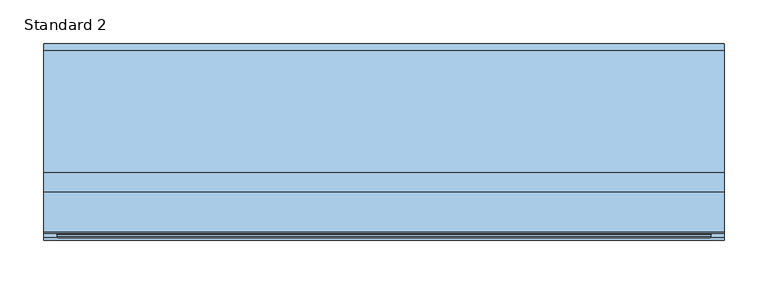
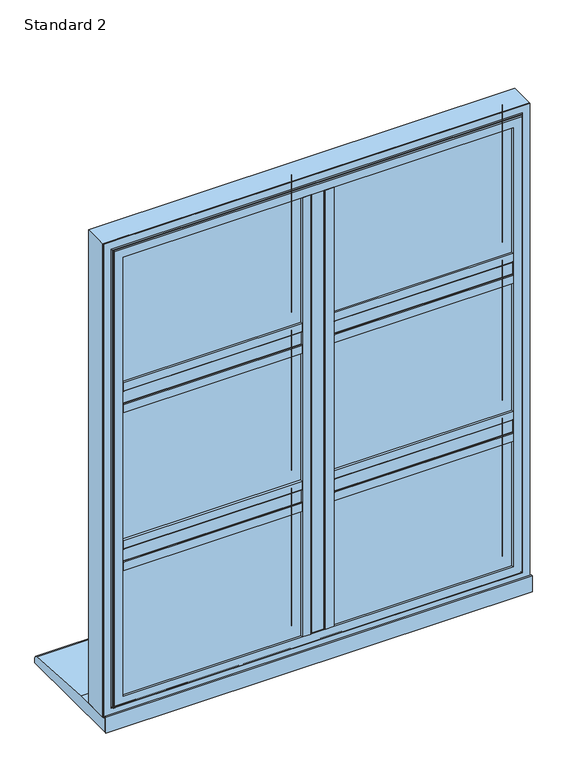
"""IFC4 building model written with IfcOpenShell, lengths in millimetres: window geometry, SMARTS_AlithermHeritage : Standard 2."""

from ifc_helpers import new_model, si_unit, point, frame, frame_2d, origin, place, context, project, spatial, polyline, circle_curve, ellipse_curve, trimmed, segment, composite_curve, outline, extrude, faceted_brep, source, transform, mapped, element, save
from ifc_brep_helpers import plane_surface, cylinder_surface, revolved_surface, advanced_brep


def standard_2_56b7443b(model_context):
    return source(origin(), model_context, "Body", "SolidModel", [
        extrude(outline(polyline([(-13.6941456, 95.2798432), (13.6941456, 95.2798432), (13.6941456, 47.279476), (-13.6941456, 47.279476), (-13.6941456, 95.2798432)])), frame((0.0, 0.0, 652.6941456), z_axis=(0.0, 0.0, 1.0), x_axis=(1.0, 0.0, 0.0)), (0.0, 0.0, 1.0), 879.6117089),
        extrude(outline(composite_curve([segment(polyline([(-29.0, 47.279476), (29.0, 47.279476), (29.0, 43.2798432), (13.0, 43.2798432)]), True, "CONTINUOUS"), segment(trimmed(circle_curve(frame_2d((13.0, 44.2798432)), 1.0), [point((13.0, 43.2798432))], [point((12.0, 44.2798432))], False, "CARTESIAN"), True, "CONTINUOUS"), segment(polyline([(12.0, 44.2798432), (12.0, 45.7798432), (-12.0, 45.7798432), (-12.0, 44.2798432)]), True, "CONTINUOUS"), segment(trimmed(circle_curve(frame_2d((-13.0, 44.2798432)), 1.0), [point((-12.0, 44.2798432))], [point((-13.0, 43.2798432))], False, "CARTESIAN"), True, "CONTINUOUS"), segment(polyline([(-13.0, 43.2798432), (-29.0, 43.2798432), (-29.0, 47.279476)]), True, "CONTINUOUS")], self_intersect=False)), frame((0.0, 0.0, 668.0), z_axis=(0.0, 0.0, 1.0), x_axis=(1.0, 0.0, 0.0)), (0.0, 0.0, 1.0), 849.0),
        extrude(outline(polyline([(-13.6941456, 95.2798432), (-13.6941456, 47.279476), (-372.3058544, 47.279476), (-372.3058544, 95.2798432), (-13.6941456, 95.2798432)])), frame((0.0, 0.0, 926.3058544), z_axis=(0.0, 0.0, 1.0), x_axis=(1.0, 0.0, 0.0)), (0.0, 0.0, 1.0), 27.3882911),
        extrude(outline(composite_curve([segment(polyline([(47.279476, 911.0), (43.2798432, 911.0), (43.2798432, 927.0)]), True, "CONTINUOUS"), segment(trimmed(circle_curve(frame_2d((44.2798432, 927.0)), 1.0), [point((43.2798432, 927.0))], [point((44.2798432, 928.0))], False, "CARTESIAN"), True, "CONTINUOUS"), segment(polyline([(44.2798432, 928.0), (45.7798432, 928.0), (45.7798432, 952.0), (44.2798432, 952.0)]), True, "CONTINUOUS"), segment(trimmed(circle_curve(frame_2d((44.2798432, 953.0)), 1.0), [point((44.2798432, 952.0))], [point((43.2798432, 953.0))], False, "CARTESIAN"), True, "CONTINUOUS"), segment(polyline([(43.2798432, 953.0), (43.2798432, 969.0), (47.279476, 969.0), (47.279476, 911.0)]), True, "CONTINUOUS")], self_intersect=False)), frame((-357.0, 0.0, 0.0), z_axis=(1.0, 0.0, 0.0), x_axis=(0.0, 1.0, 0.0)), (0.0, 0.0, 1.0), 328.0),
        extrude(outline(polyline([(-13.6941456, 95.2798432), (-13.6941456, 47.279476), (-372.3058544, 47.279476), (-372.3058544, 95.2798432), (-13.6941456, 95.2798432)])), frame((0.0, 0.0, 1231.3058544), z_axis=(0.0, 0.0, 1.0), x_axis=(1.0, 0.0, 0.0)), (0.0, 0.0, 1.0), 27.3882911),
        extrude(outline(composite_curve([segment(polyline([(47.279476, 1216.0), (43.2798432, 1216.0), (43.2798432, 1232.0)]), True, "CONTINUOUS"), segment(trimmed(circle_curve(frame_2d((44.2798432, 1232.0)), 1.0), [point((43.2798432, 1232.0))], [point((44.2798432, 1233.0))], False, "CARTESIAN"), True, "CONTINUOUS"), segment(polyline([(44.2798432, 1233.0), (45.7798432, 1233.0), (45.7798432, 1257.0), (44.2798432, 1257.0)]), True, "CONTINUOUS"), segment(trimmed(circle_curve(frame_2d((44.2798432, 1258.0)), 1.0), [point((44.2798432, 1257.0))], [point((43.2798432, 1258.0))], False, "CARTESIAN"), True, "CONTINUOUS"), segment(polyline([(43.2798432, 1258.0), (43.2798432, 1274.0), (47.279476, 1274.0), (47.279476, 1216.0)]), True, "CONTINUOUS")], self_intersect=False)), frame((-357.0, 0.0, 0.0), z_axis=(1.0, 0.0, 0.0), x_axis=(0.0, 1.0, 0.0)), (0.0, 0.0, 1.0), 328.0),
        extrude(outline(polyline([(372.3058544, 95.2798432), (372.3058544, 47.279476), (13.6941456, 47.279476), (13.6941456, 95.2798432), (372.3058544, 95.2798432)])), frame((0.0, 0.0, 926.3058544), z_axis=(0.0, 0.0, 1.0), x_axis=(1.0, 0.0, 0.0)), (0.0, 0.0, 1.0), 27.3882911),
        extrude(outline(composite_curve([segment(polyline([(47.279476, 911.0), (43.2798432, 911.0), (43.2798432, 927.0)]), True, "CONTINUOUS"), segment(trimmed(circle_curve(frame_2d((44.2798432, 927.0)), 1.0), [point((43.2798432, 927.0))], [point((44.2798432, 928.0))], False, "CARTESIAN"), True, "CONTINUOUS"), segment(polyline([(44.2798432, 928.0), (45.7798432, 928.0), (45.7798432, 952.0), (44.2798432, 952.0)]), True, "CONTINUOUS"), segment(trimmed(circle_curve(frame_2d((44.2798432, 953.0)), 1.0), [point((44.2798432, 952.0))], [point((43.2798432, 953.0))], False, "CARTESIAN"), True, "CONTINUOUS"), segment(polyline([(43.2798432, 953.0), (43.2798432, 969.0), (47.279476, 969.0), (47.279476, 911.0)]), True, "CONTINUOUS")], self_intersect=False)), frame((29.0, 0.0, 0.0), z_axis=(1.0, 0.0, 0.0), x_axis=(0.0, 1.0, 0.0)), (0.0, 0.0, 1.0), 328.0),
        extrude(outline(polyline([(372.3058544, 95.2798432), (372.3058544, 47.279476), (13.6941456, 47.279476), (13.6941456, 95.2798432), (372.3058544, 95.2798432)])), frame((0.0, 0.0, 1231.3058544), z_axis=(0.0, 0.0, 1.0), x_axis=(1.0, 0.0, 0.0)), (0.0, 0.0, 1.0), 27.3882911),
        extrude(outline(composite_curve([segment(polyline([(47.279476, 1216.0), (43.2798432, 1216.0), (43.2798432, 1232.0)]), True, "CONTINUOUS"), segment(trimmed(circle_curve(frame_2d((44.2798432, 1232.0)), 1.0), [point((43.2798432, 1232.0))], [point((44.2798432, 1233.0))], False, "CARTESIAN"), True, "CONTINUOUS"), segment(polyline([(44.2798432, 1233.0), (45.7798432, 1233.0), (45.7798432, 1257.0), (44.2798432, 1257.0)]), True, "CONTINUOUS"), segment(trimmed(circle_curve(frame_2d((44.2798432, 1258.0)), 1.0), [point((44.2798432, 1257.0))], [point((43.2798432, 1258.0))], False, "CARTESIAN"), True, "CONTINUOUS"), segment(polyline([(43.2798432, 1258.0), (43.2798432, 1274.0), (47.279476, 1274.0), (47.279476, 1216.0)]), True, "CONTINUOUS")], self_intersect=False)), frame((29.0, 0.0, 0.0), z_axis=(1.0, 0.0, 0.0), x_axis=(0.0, 1.0, 0.0)), (0.0, 0.0, 1.0), 328.0),
        extrude(outline(polyline([(-367.0, 75.2798432), (-19.0, 75.2798432), (-19.0, 71.2798432), (-367.0, 71.2798432), (-367.0, 75.2798432)])), frame((0.0, 0.0, 658.0), z_axis=(0.0, 0.0, 1.0), x_axis=(1.0, 0.0, 0.0)), (0.0, 0.0, 1.0), 263.0),
        extrude(outline(polyline([(-367.0, 55.2798432), (-19.0, 55.2798432), (-19.0, 51.2798432), (-367.0, 51.2798432), (-367.0, 55.2798432)])), frame((0.0, 0.0, 658.0), z_axis=(0.0, 0.0, 1.0), x_axis=(1.0, 0.0, 0.0)), (0.0, 0.0, 1.0), 263.0),
        extrude(outline(polyline([(921.0, -367.0), (658.0, -367.0), (658.0, -19.0), (921.0, -19.0), (921.0, -367.0)]), holes=[polyline([(911.0, -29.0), (668.0, -29.0), (668.0, -357.0), (911.0, -357.0), (911.0, -29.0)])]), frame((0.0, 55.2798432, 0.0), z_axis=(0.0, 1.0, 0.0), x_axis=(0.0, 0.0, 1.0)), (0.0, 0.0, 1.0), 16.0),
        faceted_brep([(-19.1851151, 95.2798432, 920.8148849), (-29.0, 78.2798098, 911.0), (-357.0, 78.2798098, 911.0), (-366.8148849, 95.2798432, 920.8148849), (-13.6297324, 78.2798098, 926.3702676), (-13.6297324, 95.2798432, 926.3702676), (-372.3702676, 95.2798432, 926.3702676), (-372.3702676, 78.2798098, 926.3702676), (-372.3702676, 78.2798098, 652.6297324), (-372.3702676, 95.2798432, 652.6297324), (-13.6297324, 95.2798432, 652.6297324), (-13.6297324, 78.2798098, 652.6297324), (-366.8148849, 95.2798432, 658.1851151), (-19.1851151, 95.2798432, 658.1851151), (-29.0, 78.2798098, 668.0), (-357.0, 78.2798098, 668.0)], [[[0, 1, 2, 3]], [[4, 5, 6, 7]], [[8, 9, 10, 11]], [[5, 10, 9, 6], [3, 12, 13, 0]], [[7, 8, 11, 4], [1, 14, 15, 2]], [[3, 2, 15, 12]], [[7, 6, 9, 8]], [[12, 15, 14, 13]], [[13, 14, 1, 0]], [[11, 10, 5, 4]]]),
        extrude(outline(polyline([(-367.0, 75.2798432), (-19.0, 75.2798432), (-19.0, 71.2798432), (-367.0, 71.2798432), (-367.0, 75.2798432)])), frame((0.0, 0.0, 959.0), z_axis=(0.0, 0.0, 1.0), x_axis=(1.0, 0.0, 0.0)), (0.0, 0.0, 1.0), 267.0),
        extrude(outline(polyline([(-367.0, 55.2798432), (-19.0, 55.2798432), (-19.0, 51.2798432), (-367.0, 51.2798432), (-367.0, 55.2798432)])), frame((0.0, 0.0, 959.0), z_axis=(0.0, 0.0, 1.0), x_axis=(1.0, 0.0, 0.0)), (0.0, 0.0, 1.0), 267.0),
        extrude(outline(polyline([(1226.0, -367.0), (959.0, -367.0), (959.0, -19.0), (1226.0, -19.0), (1226.0, -367.0)]), holes=[polyline([(1216.0, -29.0), (969.0, -29.0), (969.0, -357.0), (1216.0, -357.0), (1216.0, -29.0)])]), frame((0.0, 55.2798432, 0.0), z_axis=(0.0, 1.0, 0.0), x_axis=(0.0, 0.0, 1.0)), (0.0, 0.0, 1.0), 16.0),
        faceted_brep([(-19.1851151, 95.2798432, 1225.8148849), (-29.0, 78.2798098, 1216.0), (-357.0, 78.2798098, 1216.0), (-366.8148849, 95.2798432, 1225.8148849), (-13.6297324, 78.2798098, 1231.3702676), (-13.6297324, 95.2798432, 1231.3702676), (-372.3702676, 95.2798432, 1231.3702676), (-372.3702676, 78.2798098, 1231.3702676), (-372.3702676, 78.2798098, 953.6297324), (-372.3702676, 95.2798432, 953.6297324), (-13.6297324, 95.2798432, 953.6297324), (-13.6297324, 78.2798098, 953.6297324), (-366.8148849, 95.2798432, 959.1851151), (-19.1851151, 95.2798432, 959.1851151), (-29.0, 78.2798098, 969.0), (-357.0, 78.2798098, 969.0)], [[[0, 1, 2, 3]], [[4, 5, 6, 7]], [[8, 9, 10, 11]], [[5, 10, 9, 6], [3, 12, 13, 0]], [[7, 8, 11, 4], [1, 14, 15, 2]], [[3, 2, 15, 12]], [[7, 6, 9, 8]], [[12, 15, 14, 13]], [[13, 14, 1, 0]], [[11, 10, 5, 4]]]),
        extrude(outline(polyline([(-367.0, 75.2798432), (-19.0, 75.2798432), (-19.0, 71.2798432), (-367.0, 71.2798432), (-367.0, 75.2798432)])), frame((0.0, 0.0, 1264.0), z_axis=(0.0, 0.0, 1.0), x_axis=(1.0, 0.0, 0.0)), (0.0, 0.0, 1.0), 263.0),
        extrude(outline(polyline([(-367.0, 55.2798432), (-19.0, 55.2798432), (-19.0, 51.2798432), (-367.0, 51.2798432), (-367.0, 55.2798432)])), frame((0.0, 0.0, 1264.0), z_axis=(0.0, 0.0, 1.0), x_axis=(1.0, 0.0, 0.0)), (0.0, 0.0, 1.0), 263.0),
        extrude(outline(polyline([(1527.0, -367.0), (1264.0, -367.0), (1264.0, -19.0), (1527.0, -19.0), (1527.0, -367.0)]), holes=[polyline([(1517.0, -29.0), (1274.0, -29.0), (1274.0, -357.0), (1517.0, -357.0), (1517.0, -29.0)])]), frame((0.0, 55.2798432, 0.0), z_axis=(0.0, 1.0, 0.0), x_axis=(0.0, 0.0, 1.0)), (0.0, 0.0, 1.0), 16.0),
        faceted_brep([(-19.1851151, 95.2798432, 1526.8148849), (-29.0, 78.2798098, 1517.0), (-357.0, 78.2798098, 1517.0), (-366.8148849, 95.2798432, 1526.8148849), (-13.6297324, 78.2798098, 1532.3702676), (-13.6297324, 95.2798432, 1532.3702676), (-372.3702676, 95.2798432, 1532.3702676), (-372.3702676, 78.2798098, 1532.3702676), (-372.3702676, 78.2798098, 1258.6297324), (-372.3702676, 95.2798432, 1258.6297324), (-13.6297324, 95.2798432, 1258.6297324), (-13.6297324, 78.2798098, 1258.6297324), (-366.8148849, 95.2798432, 1264.1851151), (-19.1851151, 95.2798432, 1264.1851151), (-29.0, 78.2798098, 1274.0), (-357.0, 78.2798098, 1274.0)], [[[0, 1, 2, 3]], [[4, 5, 6, 7]], [[8, 9, 10, 11]], [[5, 10, 9, 6], [3, 12, 13, 0]], [[7, 8, 11, 4], [1, 14, 15, 2]], [[3, 2, 15, 12]], [[7, 6, 9, 8]], [[12, 15, 14, 13]], [[13, 14, 1, 0]], [[11, 10, 5, 4]]]),
        extrude(outline(polyline([(19.0, 75.2798432), (367.0, 75.2798432), (367.0, 71.2798432), (19.0, 71.2798432), (19.0, 75.2798432)])), frame((0.0, 0.0, 658.0), z_axis=(0.0, 0.0, 1.0), x_axis=(1.0, 0.0, 0.0)), (0.0, 0.0, 1.0), 263.0),
        extrude(outline(polyline([(19.0, 55.2798432), (367.0, 55.2798432), (367.0, 51.2798432), (19.0, 51.2798432), (19.0, 55.2798432)])), frame((0.0, 0.0, 658.0), z_axis=(0.0, 0.0, 1.0), x_axis=(1.0, 0.0, 0.0)), (0.0, 0.0, 1.0), 263.0),
        extrude(outline(polyline([(921.0, 19.0), (658.0, 19.0), (658.0, 367.0), (921.0, 367.0), (921.0, 19.0)]), holes=[polyline([(911.0, 357.0), (668.0, 357.0), (668.0, 29.0), (911.0, 29.0), (911.0, 357.0)])]), frame((0.0, 55.2798432, 0.0), z_axis=(0.0, 1.0, 0.0), x_axis=(0.0, 0.0, 1.0)), (0.0, 0.0, 1.0), 16.0),
        faceted_brep([(366.8148849, 95.2798432, 920.8148849), (357.0, 78.2798098, 911.0), (29.0, 78.2798098, 911.0), (19.1851151, 95.2798432, 920.8148849), (372.3702676, 78.2798098, 926.3702676), (372.3702676, 95.2798432, 926.3702676), (13.6297324, 95.2798432, 926.3702676), (13.6297324, 78.2798098, 926.3702676), (13.6297324, 78.2798098, 652.6297324), (13.6297324, 95.2798432, 652.6297324), (372.3702676, 95.2798432, 652.6297324), (372.3702676, 78.2798098, 652.6297324), (19.1851151, 95.2798432, 658.1851151), (366.8148849, 95.2798432, 658.1851151), (357.0, 78.2798098, 668.0), (29.0, 78.2798098, 668.0)], [[[0, 1, 2, 3]], [[4, 5, 6, 7]], [[8, 9, 10, 11]], [[5, 10, 9, 6], [3, 12, 13, 0]], [[7, 8, 11, 4], [1, 14, 15, 2]], [[3, 2, 15, 12]], [[7, 6, 9, 8]], [[12, 15, 14, 13]], [[13, 14, 1, 0]], [[11, 10, 5, 4]]]),
        extrude(outline(polyline([(19.0, 75.2798432), (367.0, 75.2798432), (367.0, 71.2798432), (19.0, 71.2798432), (19.0, 75.2798432)])), frame((0.0, 0.0, 959.0), z_axis=(0.0, 0.0, 1.0), x_axis=(1.0, 0.0, 0.0)), (0.0, 0.0, 1.0), 267.0),
        extrude(outline(polyline([(19.0, 55.2798432), (367.0, 55.2798432), (367.0, 51.2798432), (19.0, 51.2798432), (19.0, 55.2798432)])), frame((0.0, 0.0, 959.0), z_axis=(0.0, 0.0, 1.0), x_axis=(1.0, 0.0, 0.0)), (0.0, 0.0, 1.0), 267.0),
        extrude(outline(polyline([(1226.0, 19.0), (959.0, 19.0), (959.0, 367.0), (1226.0, 367.0), (1226.0, 19.0)]), holes=[polyline([(1216.0, 357.0), (969.0, 357.0), (969.0, 29.0), (1216.0, 29.0), (1216.0, 357.0)])]), frame((0.0, 55.2798432, 0.0), z_axis=(0.0, 1.0, 0.0), x_axis=(0.0, 0.0, 1.0)), (0.0, 0.0, 1.0), 16.0),
        faceted_brep([(366.8148849, 95.2798432, 1225.8148849), (357.0, 78.2798098, 1216.0), (29.0, 78.2798098, 1216.0), (19.1851151, 95.2798432, 1225.8148849), (372.3702676, 78.2798098, 1231.3702676), (372.3702676, 95.2798432, 1231.3702676), (13.6297324, 95.2798432, 1231.3702676), (13.6297324, 78.2798098, 1231.3702676), (13.6297324, 78.2798098, 953.6297324), (13.6297324, 95.2798432, 953.6297324), (372.3702676, 95.2798432, 953.6297324), (372.3702676, 78.2798098, 953.6297324), (19.1851151, 95.2798432, 959.1851151), (366.8148849, 95.2798432, 959.1851151), (357.0, 78.2798098, 969.0), (29.0, 78.2798098, 969.0)], [[[0, 1, 2, 3]], [[4, 5, 6, 7]], [[8, 9, 10, 11]], [[5, 10, 9, 6], [3, 12, 13, 0]], [[7, 8, 11, 4], [1, 14, 15, 2]], [[3, 2, 15, 12]], [[7, 6, 9, 8]], [[12, 15, 14, 13]], [[13, 14, 1, 0]], [[11, 10, 5, 4]]]),
        extrude(outline(polyline([(1550.0, 390.0), (1550.0, -390.0), (635.0, -390.0), (635.0, 390.0), (1550.0, 390.0)]), holes=[polyline([(652.7000182, 372.2999818), (652.7000182, -372.2999818), (1532.2999818, -372.2999818), (1532.2999818, 372.2999818), (652.7000182, 372.2999818)])]), frame((0.0, 50.279857, 0.0), z_axis=(0.0, 1.0, 0.0), x_axis=(0.0, 0.0, 1.0)), (0.0, 0.0, 1.0), 44.9999962),
        advanced_brep(
        [(357.0, 43.2798432, 1517.0), (357.0, 47.2798432, 1517.0), (357.0, 47.2798432, 668.0), (357.0, 43.2798432, 668.0), (390.0, 50.279857, 1550.0), (390.0, 48.279857, 1550.0), (390.0, 48.279857, 635.0), (390.0, 50.279857, 635.0), (372.4999818, 43.2798432, 1532.4999818), (-372.4999818, 43.2798432, 1532.4999818), (-372.4999818, 43.2798432, 652.5000182), (372.4999818, 43.2798432, 652.5000182), (-357.0, 43.2798432, 668.0), (-357.0, 43.2798432, 1517.0), (-390.0, 50.279857, 1550.0), (-390.0, 48.279857, 1550.0), (-390.0, 50.279857, 635.0), (372.2999818, 50.279857, 1532.2999818), (-372.2999818, 50.279857, 1532.2999818), (-372.2999818, 50.279857, 652.7000182), (372.2999818, 50.279857, 652.7000182), (-357.0, 47.2798432, 1517.0), (-357.0, 47.2798432, 668.0), (-390.0, 48.279857, 635.0), (-372.2999818, 47.2798432, 1532.2999818), (372.2999818, 47.2798432, 1532.2999818), (372.2999818, 47.2798432, 652.7000182), (374.4999818, 46.779857, 650.5000182), (374.4999818, 45.2798432, 650.5000182), (-374.4999818, 45.2798432, 650.5000182), (-374.4999818, 46.779857, 650.5000182), (374.4999818, 46.779857, 1534.4999818), (374.4999818, 45.2798432, 1534.4999818), (-372.2999818, 47.2798432, 652.7000182), (-374.4999818, 45.2798432, 1534.4999818), (-374.4999818, 46.779857, 1534.4999818), (375.9999818, 48.279857, 1535.9999818), (375.9999818, 48.279857, 649.0000182), (-375.9999818, 48.279857, 649.0000182), (-375.9999818, 48.279857, 1535.9999818)],
        [
            (0, 1),
            (1, 2),
            (2, 3),
            (3, 0),
            (4, 5),
            (5, 6),
            (6, 7),
            (7, 4),
            (8, 9),
            (9, 10),
            (10, 11),
            (11, 8),
            (3, 12),
            (12, 13),
            (13, 0),
            (14, 15),
            (15, 5),
            (4, 14),
            (7, 16),
            (16, 14),
            (17, 18),
            (18, 19),
            (19, 20),
            (20, 17),
            (13, 21),
            (21, 1),
            (2, 22),
            (22, 12),
            (22, 21),
            (6, 23),
            (23, 16),
            (23, 15),
            (24, 18),
            (17, 25),
            (25, 24),
            (20, 26),
            (26, 25),
            (27, 28),
            (28, 29),
            (29, 30),
            (30, 27),
            (31, 32),
            (32, 28),
            (27, 31),
            (19, 33),
            (33, 26),
            (24, 33),
            (29, 34),
            (34, 35),
            (35, 30),
            (34, 32),
            (31, 35),
            (36, 31, ellipse_curve(frame((375.9999818, 46.779857, 1535.9999818), z_axis=(-0.7071067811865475, 0.0, 0.7071067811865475), x_axis=(-0.7071067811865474, 0.0, -0.7071067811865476)), 2.1213203, 1.5)),
            (27, 37, ellipse_curve(frame((375.9999818, 46.779857, 649.0000182), z_axis=(-0.7071067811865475, 0.0, -0.7071067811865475), x_axis=(0.7071067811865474, 0.0, -0.7071067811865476)), 2.1213203, 1.5)),
            (37, 36),
            (30, 38, ellipse_curve(frame((-375.9999818, 46.779857, 649.0000182), z_axis=(-0.7071067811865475, 0.0, 0.7071067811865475), x_axis=(-0.7071067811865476, 0.0, -0.7071067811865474)), 2.1213203, 1.5)),
            (38, 37),
            (35, 39, ellipse_curve(frame((-375.9999818, 46.779857, 1535.9999818), z_axis=(0.7071067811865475, 0.0, 0.7071067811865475), x_axis=(-0.7071067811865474, 0.0, 0.7071067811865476)), 2.1213203, 1.5)),
            (39, 38),
            (36, 39),
            (32, 8, ellipse_curve(frame((372.4999818, 45.2798432, 1532.4999818), z_axis=(0.7071067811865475, 0.0, -0.7071067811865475), x_axis=(0.7071067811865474, 0.0, 0.7071067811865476)), 2.8284271, 2.0)),
            (11, 28, ellipse_curve(frame((372.4999818, 45.2798432, 652.5000182), z_axis=(0.7071067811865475, 0.0, 0.7071067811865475), x_axis=(-0.7071067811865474, 0.0, 0.7071067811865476)), 2.8284271, 2.0)),
            (10, 29, ellipse_curve(frame((-372.4999818, 45.2798432, 652.5000182), z_axis=(0.7071067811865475, 0.0, -0.7071067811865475), x_axis=(0.7071067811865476, 0.0, 0.7071067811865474)), 2.8284271, 2.0)),
            (9, 34, ellipse_curve(frame((-372.4999818, 45.2798432, 1532.4999818), z_axis=(-0.7071067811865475, 0.0, -0.7071067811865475), x_axis=(0.7071067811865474, 0.0, -0.7071067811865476)), 2.8284271, 2.0)),
        ],
        [
            plane_surface(frame((357.0, 47.2798432, 1517.0), z_axis=(-1.0, 0.0, 0.0), x_axis=(0.0, 0.0, -1.0))),
            plane_surface(frame((390.0, 48.279857, 1550.0), z_axis=(1.0, 0.0, 0.0), x_axis=(0.0, 0.0, -1.0))),
            plane_surface(frame((-357.0, 43.2798432, 1517.0), z_axis=(0.0, -1.0, 0.0), x_axis=(1.0, 0.0, 0.0))),
            plane_surface(frame((-390.0, 48.279857, 1550.0), z_axis=(0.0, 0.0, 1.0), x_axis=(1.0, 0.0, 0.0))),
            plane_surface(frame((-390.0, 50.279857, 1550.0), z_axis=(0.0, 1.0, 0.0), x_axis=(1.0, 0.0, 0.0))),
            plane_surface(frame((-357.0, 47.2798432, 1517.0), z_axis=(0.0, 0.0, -1.0), x_axis=(1.0, 0.0, 0.0))),
            plane_surface(frame((357.0, 47.2798432, 668.0), z_axis=(0.0, 0.0, 1.0), x_axis=(-1.0, 0.0, 0.0))),
            plane_surface(frame((-357.0, 47.2798432, 668.0), z_axis=(1.0, 0.0, 0.0), x_axis=(0.0, 0.0, 1.0))),
            plane_surface(frame((390.0, 48.279857, 635.0), z_axis=(0.0, 0.0, -1.0), x_axis=(-1.0, 0.0, 0.0))),
            plane_surface(frame((-390.0, 48.279857, 635.0), z_axis=(-1.0, 0.0, 0.0), x_axis=(0.0, 0.0, 1.0))),
            plane_surface(frame((-372.2999818, 50.279857, 1532.2999818), z_axis=(0.0, 0.0, -1.0), x_axis=(1.0, 0.0, 0.0))),
            plane_surface(frame((372.2999818, 50.279857, 1532.2999818), z_axis=(-1.0, 0.0, 0.0), x_axis=(0.0, 0.0, -1.0))),
            plane_surface(frame((374.4999818, 45.2798432, 650.5000182), z_axis=(0.0, 0.0, -1.0), x_axis=(-1.0, 0.0, 0.0))),
            plane_surface(frame((374.4999818, 45.2798432, 1534.4999818), z_axis=(1.0, 0.0, 0.0), x_axis=(0.0, 0.0, -1.0))),
            plane_surface(frame((372.2999818, 50.279857, 652.7000182), z_axis=(0.0, 0.0, 1.0), x_axis=(-1.0, 0.0, 0.0))),
            plane_surface(frame((-372.2999818, 50.279857, 652.7000182), z_axis=(1.0, 0.0, 0.0), x_axis=(0.0, 0.0, 1.0))),
            plane_surface(frame((-374.4999818, 45.2798432, 650.5000182), z_axis=(-1.0, 0.0, 0.0), x_axis=(0.0, 0.0, 1.0))),
            plane_surface(frame((-372.2999818, 47.2798432, 1532.2999818), z_axis=(0.0, 1.0, 0.0), x_axis=(1.0, 0.0, 0.0))),
            plane_surface(frame((-374.4999818, 45.2798432, 1534.4999818), z_axis=(0.0, 0.0, 1.0), x_axis=(1.0, 0.0, 0.0))),
            revolved_surface(polyline([(374.4999818, 46.779857, 647.5000182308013), (374.4999818, 46.779857, 1537.4999817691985)]), (375.9999818, 46.779857, 1550.0), (0.0, 0.0, -1.0)),
            revolved_surface(polyline([(-377.4999817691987, 46.779857, 650.5000182), (377.49998176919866, 46.779857, 650.5000182)]), (390.0, 46.779857, 649.0000182), (-1.0, 0.0, 0.0)),
            revolved_surface(polyline([(-374.4999818, 46.779857, 1537.4999817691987), (-374.4999818, 46.779857, 647.5000182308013)]), (-375.9999818, 46.779857, 635.0), (0.0, 0.0, 1.0)),
            revolved_surface(polyline([(377.4999817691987, 46.779857, 1534.4999818), (-377.49998176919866, 46.779857, 1534.4999818)]), (-390.0, 46.779857, 1535.9999818), (1.0, 0.0, 0.0)),
            plane_surface(frame((-375.9999818, 48.279857, 1535.9999818), z_axis=(0.0, -1.0, 0.0), x_axis=(1.0, 0.0, 0.0))),
            cylinder_surface(frame((372.4999818, 45.2798432, 1550.0), z_axis=(0.0, 0.0, 1.0), x_axis=(-1.0, 0.0, 0.0)), 2.0),
            cylinder_surface(frame((390.0, 45.2798432, 652.5000182), z_axis=(1.0, 0.0, 0.0), x_axis=(0.0, 0.0, 1.0)), 2.0),
            cylinder_surface(frame((-372.4999818, 45.2798432, 635.0), z_axis=(0.0, 0.0, -1.0), x_axis=(1.0, 0.0, 0.0)), 2.0),
            cylinder_surface(frame((-390.0, 45.2798432, 1532.4999818), z_axis=(-1.0, 0.0, 0.0), x_axis=(0.0, 0.0, -1.0)), 2.0),
        ],
        [
            (0, [[1, 2, 3, 4]]),
            (1, [[5, 6, 7, 8]]),
            (2, [[9, 10, 11, 12], [13, 14, 15, -4]]),
            (3, [[16, 17, -5, 18]]),
            (4, [[19, 20, -18, -8], [21, 22, 23, 24]]),
            (5, [[25, 26, -1, -15]]),
            (6, [[-3, 27, 28, -13]]),
            (7, [[-28, 29, -25, -14]]),
            (8, [[-7, 30, 31, -19]]),
            (9, [[-31, 32, -16, -20]]),
            (10, [[33, -21, 34, 35]]),
            (11, [[-34, -24, 36, 37]]),
            (12, [[38, 39, 40, 41]]),
            (13, [[42, 43, -38, 44]]),
            (14, [[-36, -23, 45, 46]]),
            (15, [[-45, -22, -33, 47]]),
            (16, [[-40, 48, 49, 50]]),
            (17, [[-46, -47, -35, -37], [-26, -29, -27, -2]]),
            (18, [[-49, 51, -42, 52]]),
            (19, [[53, -44, 54, 55]]),
            (20, [[-54, -41, 56, 57]]),
            (21, [[-56, -50, 58, 59]]),
            (22, [[-58, -52, -53, 60]]),
            (23, [[-17, -32, -30, -6], [-57, -59, -60, -55]]),
            (24, [[61, -12, 62, -43]]),
            (25, [[-62, -11, 63, -39]]),
            (26, [[-63, -10, 64, -48]]),
            (27, [[-64, -9, -61, -51]]),
        ],
    ),
        extrude(outline(polyline([(19.0, 75.2798432), (367.0, 75.2798432), (367.0, 71.2798432), (19.0, 71.2798432), (19.0, 75.2798432)])), frame((0.0, 0.0, 1264.0), z_axis=(0.0, 0.0, 1.0), x_axis=(1.0, 0.0, 0.0)), (0.0, 0.0, 1.0), 263.0),
        extrude(outline(polyline([(19.0, 55.2798432), (367.0, 55.2798432), (367.0, 51.2798432), (19.0, 51.2798432), (19.0, 55.2798432)])), frame((0.0, 0.0, 1264.0), z_axis=(0.0, 0.0, 1.0), x_axis=(1.0, 0.0, 0.0)), (0.0, 0.0, 1.0), 263.0),
        extrude(outline(polyline([(1527.0, 19.0), (1264.0, 19.0), (1264.0, 367.0), (1527.0, 367.0), (1527.0, 19.0)]), holes=[polyline([(1517.0, 357.0), (1274.0, 357.0), (1274.0, 29.0), (1517.0, 29.0), (1517.0, 357.0)])]), frame((0.0, 55.2798432, 0.0), z_axis=(0.0, 1.0, 0.0), x_axis=(0.0, 0.0, 1.0)), (0.0, 0.0, 1.0), 16.0),
        faceted_brep([(366.8148849, 95.2798432, 1526.8148849), (357.0, 78.2798098, 1517.0), (29.0, 78.2798098, 1517.0), (19.1851151, 95.2798432, 1526.8148849), (372.3702676, 78.2798098, 1532.3702676), (372.3702676, 95.2798432, 1532.3702676), (13.6297324, 95.2798432, 1532.3702676), (13.6297324, 78.2798098, 1532.3702676), (13.6297324, 78.2798098, 1258.6297324), (13.6297324, 95.2798432, 1258.6297324), (372.3702676, 95.2798432, 1258.6297324), (372.3702676, 78.2798098, 1258.6297324), (19.1851151, 95.2798432, 1264.1851151), (366.8148849, 95.2798432, 1264.1851151), (357.0, 78.2798098, 1274.0), (29.0, 78.2798098, 1274.0)], [[[0, 1, 2, 3]], [[4, 5, 6, 7]], [[8, 9, 10, 11]], [[5, 10, 9, 6], [3, 12, 13, 0]], [[7, 8, 11, 4], [1, 14, 15, 2]], [[3, 2, 15, 12]], [[7, 6, 9, 8]], [[12, 15, 14, 13]], [[13, 14, 1, 0]], [[11, 10, 5, 4]]]),
        extrude(outline(polyline([(390.0, 43.2798432), (390.0, 40.7798432), (-390.0, 40.7798432), (-390.0, 43.2798432), (390.0, 43.2798432)])), frame((0.0, 0.0, 610.0), z_axis=(0.0, 0.0, 1.0), x_axis=(1.0, 0.0, 0.0)), (0.0, 0.0, 1.0), 31.0),
        extrude(outline(composite_curve([segment(polyline([(265.7798432, 610.0), (43.2798432, 610.0), (43.2798432, 635.0), (118.7798432, 635.0), (258.4770891, 625.9276664)]), True, "CONTINUOUS"), segment(trimmed(circle_curve(frame_2d((257.7798432, 617.9581088)), 8.0), [point((258.4770891, 625.9276664))], [point((265.7798432, 617.9581088))], False, "CARTESIAN"), True, "CONTINUOUS"), segment(polyline([(265.7798432, 617.9581088), (265.7798432, 610.0)]), True, "CONTINUOUS")], self_intersect=False)), frame((-390.0, 0.0, 0.0), z_axis=(1.0, 0.0, 0.0), x_axis=(0.0, 1.0, 0.0)), (0.0, 0.0, 1.0), 780.0),
    ])


if __name__ == "__main__":
    model = new_model("IFC4")
    model_context = context("Model", 3, world=origin())
    ifc_project = project(units=[si_unit("LENGTHUNIT", "METRE", prefix="MILLI")], contexts=[model_context])
    site = spatial("IfcSite", under=ifc_project)
    building = spatial("IfcBuilding", under=site)
    placement = place(None, origin())
    standard_2_shape = standard_2_56b7443b(model_context)
    element("IfcWindow", 1, ObjectType="SMARTS_AlithermHeritage : Standard 2", at=placement, inside=building, context=model_context, shape_type="MappedRepresentation", body=[
        mapped(standard_2_shape, transform((0.0, 0.0, 0.0), x_axis=(1.0, 0.0, 0.0), y_axis=(0.0, 1.0, 0.0), z_axis=(0.0, 0.0, 1.0))),
    ])
    save(model, "model.ifc")
